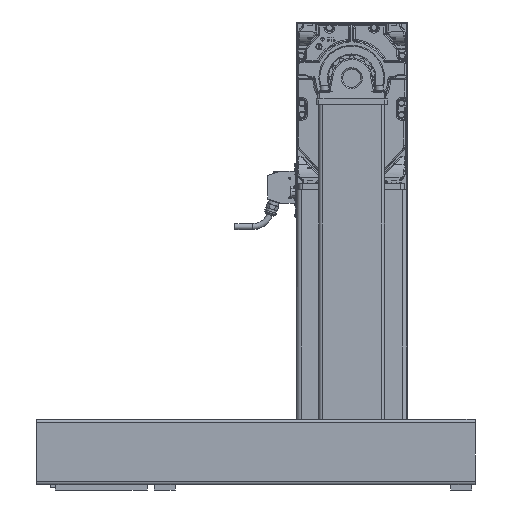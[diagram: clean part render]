
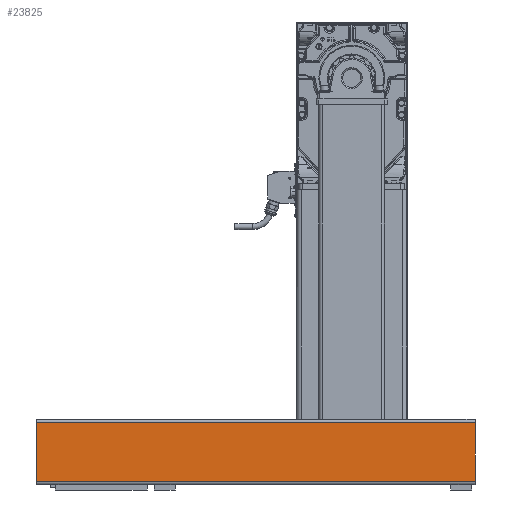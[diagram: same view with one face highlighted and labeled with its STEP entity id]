
A CAD part, front view. The second image highlights one B-rep face of the part: STEP entity #23825.
In plain terms, the highlighted planar face has unit normal (0, -1, 0).
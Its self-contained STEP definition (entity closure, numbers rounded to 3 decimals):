
#3054=PLANE('',#26190);
#4401=FACE_OUTER_BOUND('',#5924,.T.);
#5924=EDGE_LOOP('',(#21579,#21580,#21581,#21582));
#7399=LINE('',#61008,#8990);
#7490=LINE('',#61248,#9081);
#7491=LINE('',#61250,#9082);
#7492=LINE('',#61251,#9083);
#8990=VECTOR('',#31979,1000.);
#9081=VECTOR('',#32260,1000.);
#9082=VECTOR('',#32261,1000.);
#9083=VECTOR('',#32262,1000.);
#12103=VERTEX_POINT('',#61005);
#12104=VERTEX_POINT('',#61007);
#12158=VERTEX_POINT('',#61247);
#12159=VERTEX_POINT('',#61249);
#15202=EDGE_CURVE('',#12104,#12103,#7399,.T.);
#15327=EDGE_CURVE('',#12103,#12158,#7490,.T.);
#15328=EDGE_CURVE('',#12158,#12159,#7491,.T.);
#15329=EDGE_CURVE('',#12159,#12104,#7492,.T.);
#21579=ORIENTED_EDGE('',*,*,#15202,.T.);
#21580=ORIENTED_EDGE('',*,*,#15327,.T.);
#21581=ORIENTED_EDGE('',*,*,#15328,.T.);
#21582=ORIENTED_EDGE('',*,*,#15329,.T.);
#23825=ADVANCED_FACE('',(#4401),#3054,.T.);
#26190=AXIS2_PLACEMENT_3D('',#61246,#32258,#32259);
#31979=DIRECTION('',(0.,0.,-1.));
#32258=DIRECTION('center_axis',(0.,-1.,0.));
#32259=DIRECTION('ref_axis',(1.,0.,0.));
#32260=DIRECTION('',(1.,0.,0.));
#32261=DIRECTION('',(0.,0.,1.));
#32262=DIRECTION('',(-1.,0.,0.));
#61005=CARTESIAN_POINT('',(-534.334,-4226.,-2229.129));
#61007=CARTESIAN_POINT('',(-534.334,-4226.,-2004.329));
#61008=CARTESIAN_POINT('',(-534.334,-4226.,-2229.129));
#61246=CARTESIAN_POINT('Origin',(1489.219,-4226.,-2229.129));
#61247=CARTESIAN_POINT('',(1135.666,-4226.,-2229.129));
#61248=CARTESIAN_POINT('',(1489.219,-4226.,-2229.129));
#61249=CARTESIAN_POINT('',(1135.666,-4226.,-2004.329));
#61250=CARTESIAN_POINT('',(1135.666,-4226.,-2229.129));
#61251=CARTESIAN_POINT('',(1489.219,-4226.,-2004.329));
